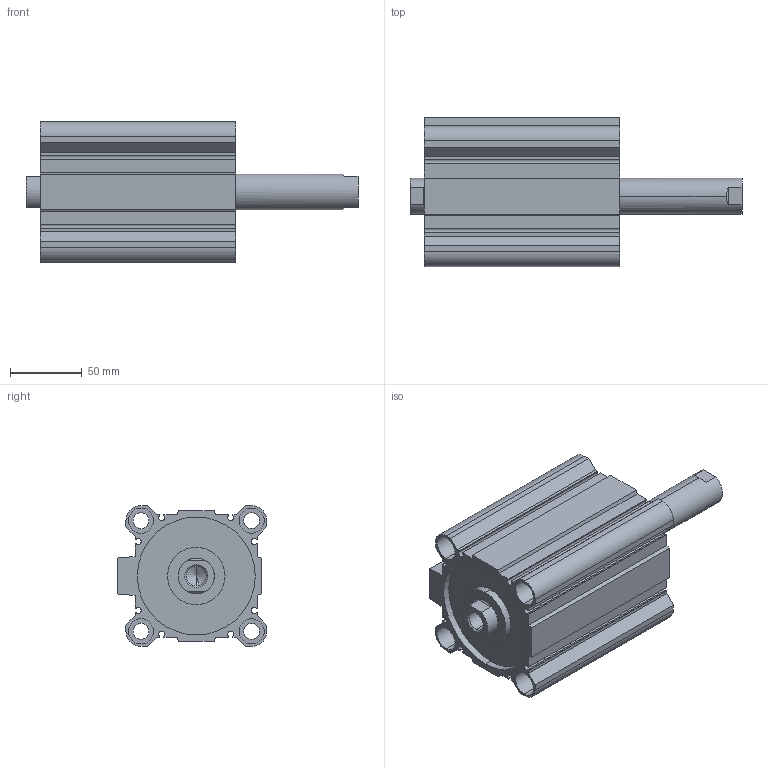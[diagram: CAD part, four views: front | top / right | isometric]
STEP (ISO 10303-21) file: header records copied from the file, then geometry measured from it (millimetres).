
FILE_DESCRIPTION (( 'STEP AP203' ), '1' );
FILE_NAME ('CCMB80-75F-P.STEP', '2020-08-05T11:52:03', ( '' ), ( '' ), 'SwSTEP 2.0', 'SolidWorks 2019', '' );
FILE_SCHEMA (( 'CONFIG_CONTROL_DESIGN' ));
Length unit declared in the file: millimetre
Products named in the file (1): CCMB80-75F-P
Bounding box: 231 x 104 x 98 mm (x, y, z)
Volume: 724193 mm3; surface area: 185156.5 mm2
Topology: 2 solids, 2 shells, 176 faces, 450 edges, 294 vertices
Faces by surface type: plane 90, cylinder 74, cone 12
Entity records: 5421 total; most frequent: DIRECTION 948, CARTESIAN_POINT 941, ORIENTED_EDGE 892, EDGE_CURVE 446, AXIS2_PLACEMENT_3D 333, VERTEX_POINT 294, LINE 282, VECTOR 282
